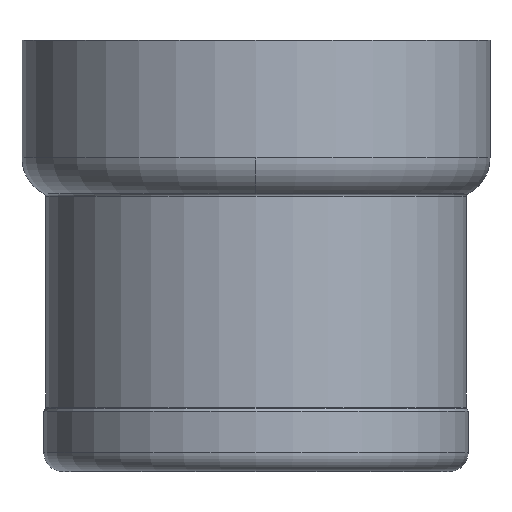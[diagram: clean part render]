
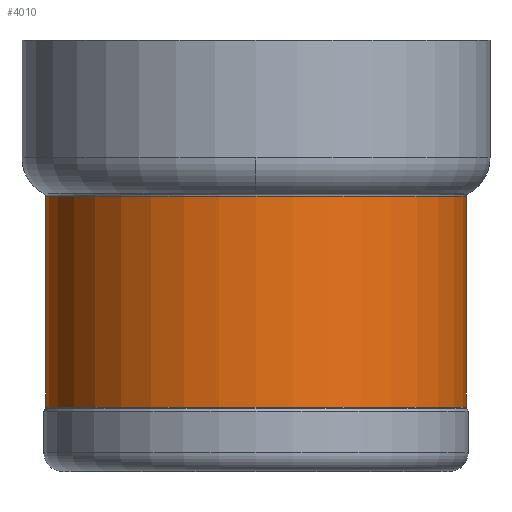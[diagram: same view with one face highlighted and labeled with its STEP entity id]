
A CAD part, left-side view. The second image highlights one B-rep face of the part: STEP entity #4010.
In plain terms, the highlighted cylindrical face has radius 27.85 mm (diameter 55.7 mm), a partial arc.
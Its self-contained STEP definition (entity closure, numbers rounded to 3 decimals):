
#2610=CARTESIAN_POINT('',(115.401,36.979,
0.));
#2620=VERTEX_POINT('',#2610);
#2650=CARTESIAN_POINT('',(115.401,64.829,
0.));
#2660=DIRECTION('',(-1.,0.,0.));
#2670=DIRECTION('',(0.,-1.,0.));
#2680=AXIS2_PLACEMENT_3D('',#2650,#2660,#2670);
#2690=CIRCLE('',#2680,27.85);
#2700=CARTESIAN_POINT('',(115.401,92.679,
0.));
#2710=VERTEX_POINT('',#2700);
#2910=CARTESIAN_POINT('',(141.249,36.979,
0.));
#2920=DIRECTION('',(1.,0.,0.));
#2930=VECTOR('',#2920,1.);
#2940=LINE('',#2910,#2930);
#2950=CARTESIAN_POINT('',(143.307,36.979,
0.));
#2960=VERTEX_POINT('',#2950);
#2970=EDGE_CURVE('',#2620,#2960,#2940,.T.);
#2990=CARTESIAN_POINT('',(143.307,64.829,
0.));
#3000=DIRECTION('',(1.,0.,0.));
#3010=DIRECTION('',(0.,-1.,0.));
#3020=AXIS2_PLACEMENT_3D('',#2990,#3000,#3010);
#3030=CIRCLE('',#3020,27.85);
#3040=CARTESIAN_POINT('',(143.307,92.679,
0.));
#3050=VERTEX_POINT('',#3040);
#3080=CARTESIAN_POINT('',(141.249,92.679,
0.));
#3090=DIRECTION('',(1.,0.,0.));
#3100=VECTOR('',#3090,1.);
#3110=LINE('',#3080,#3100);
#3120=EDGE_CURVE('',#2710,#3050,#3110,.T.);
#3520=EDGE_CURVE('',#3050,#2960,#3030,.T.);
#3890=CARTESIAN_POINT('',(141.249,64.829,
0.));
#3900=DIRECTION('',(1.,0.,0.));
#3910=DIRECTION('',(0.,-1.,0.));
#3920=AXIS2_PLACEMENT_3D('',#3890,#3900,#3910);
#3930=CYLINDRICAL_SURFACE('',#3920,27.85);
#3940=ORIENTED_EDGE('',*,*,#2970,.T.);
#3950=EDGE_CURVE('',#2620,#2710,#2690,.T.);
#3960=ORIENTED_EDGE('',*,*,#3950,.F.);
#3970=ORIENTED_EDGE('',*,*,#3120,.F.);
#3980=ORIENTED_EDGE('',*,*,#3520,.F.);
#3990=EDGE_LOOP('',(#3980,#3970,#3960,#3940));
#4000=FACE_OUTER_BOUND('',#3990,.T.);
#4010=ADVANCED_FACE('',(#4000),#3930,.T.);
